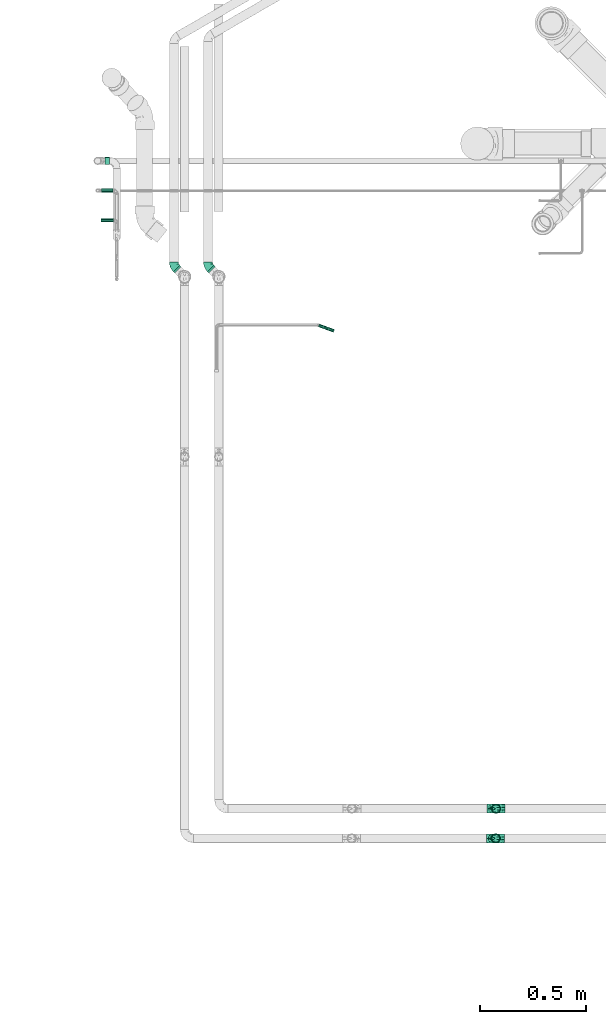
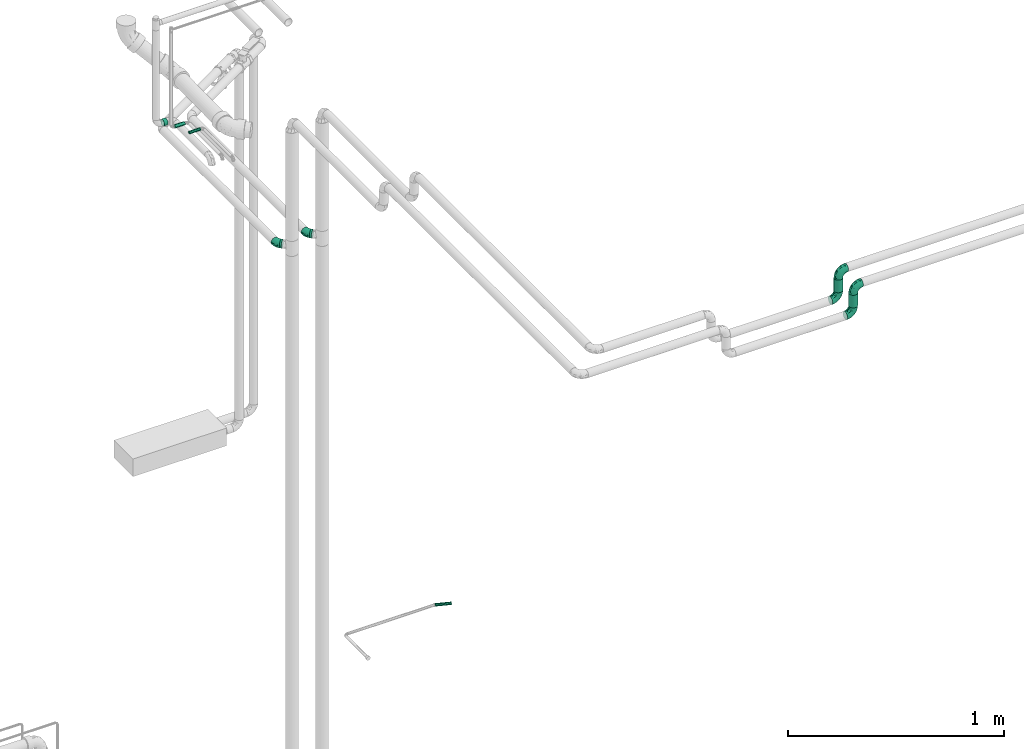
# One storey, part 71 of 108: 8 flow segments, 6 flow fittings.
"""IFC2X3 building model written with IfcOpenShell, lengths in millimetres."""

from ifc_helpers import new_model, entity, si_unit, converted_unit, derived_unit, direction, frame, origin_with_axes, origin_2d_with_axis, place, context, subcontext, project, spatial, hollow_circle, extrude, open_shell, surface_model, source, transform, mapped, type_object, element, save


model = new_model("IFC2X3")

# Units and contexts
model_context = context("Model", 3, precision=0.01, world=frame((0.0, 4.29681676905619e-09, 0.0)), true_north=direction((4.01073788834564e-13, 1.0)))
plan_context = context("Plan", 3, precision=0.01, world=frame((0.0, 4.29681676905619e-09, 0.0)), true_north=direction((4.01073788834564e-13, 1.0)))
body_context = subcontext(model_context, "Body", "Model", "MODEL_VIEW")
ifc_project = project(units=[converted_unit("PLANEANGLEUNIT", "DEGREE", entity("IfcPositiveLengthMeasure", 0.0174532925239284), si_unit("PLANEANGLEUNIT", "RADIAN"), dimensions=[0, 0, 0, 0, 0, 0, 0]), si_unit("AREAUNIT", "SQUARE_METRE"), si_unit("LENGTHUNIT", "METRE", prefix="MILLI"), si_unit("MASSUNIT", "GRAM", prefix="KILO"), si_unit("POWERUNIT", "WATT"), si_unit("PRESSUREUNIT", "PASCAL", prefix="KILO"), si_unit("FORCEUNIT", "NEWTON", prefix="KILO"), si_unit("ELECTRICVOLTAGEUNIT", "VOLT"), si_unit("ELECTRICCURRENTUNIT", "AMPERE"), si_unit("THERMODYNAMICTEMPERATUREUNIT", "DEGREE_CELSIUS"), si_unit("TIMEUNIT", "SECOND"), si_unit("VOLUMEUNIT", "CUBIC_METRE"), derived_unit("LINEARVELOCITYUNIT", [(si_unit("LENGTHUNIT", "METRE"), 1), (si_unit("TIMEUNIT", "SECOND"), -1)]), derived_unit("VOLUMETRICFLOWRATEUNIT", [(si_unit("VOLUMEUNIT", "CUBIC_METRE"), 1), (si_unit("TIMEUNIT", "SECOND"), -1)]), derived_unit("THERMALTRANSMITTANCEUNIT", [(si_unit("POWERUNIT", "WATT"), 1), (si_unit("THERMODYNAMICTEMPERATUREUNIT", "KELVIN"), -1), (si_unit("AREAUNIT", "SQUARE_METRE"), -1)]), derived_unit("SOUNDPRESSUREUNIT", [(si_unit("PRESSUREUNIT", "PASCAL"), 1)])], contexts=[model_context, plan_context])

# Site, building, storey
site_placement = place(None, frame((0.0, -4.29681676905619e-09, 0.0), z_axis=(0.0, 0.0, 1.0), x_axis=(1.0, 0.0, 0.0)))
site = spatial("IfcSite", under=ifc_project, at=site_placement, CompositionType="ELEMENT")
building_placement = place(site_placement, frame((0.0, 4.29681676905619e-09, 0.0), z_axis=(0.0, 0.0, 1.0), x_axis=(1.0, 0.0, 0.0)))
building = spatial("IfcBuilding", under=site, at=building_placement, Name="mc-building", CompositionType="ELEMENT")
storey_placement = place(building_placement, frame((0.0, 0.0, 210200.0), z_axis=(0.0, 0.0, 1.0), x_axis=(1.0, 0.0, 0.0)))
storey = spatial("IfcBuildingStorey", under=building, at=storey_placement, Name="Nivå F - 0,7 m", CompositionType="ELEMENT", Elevation=210200.0)

# Flow fittings
pipe_fitting_type = type_object("IfcPipeFittingType", Name="magi_pipe_fe_elbow_short_001", PredefinedType="BEND")
shared_shape_1 = source(origin_with_axes(), body_context, "Body", "SurfaceModel", [
    surface_model("IfcShellBasedSurfaceModel", [(-42.4, 10.6, -18.35974), (-42.4, 5.48696, -20.47763), (-42.4, 0.0, -21.2), (-42.4, 14.99066, -14.99066), (-42.4, 20.47763, -5.48696), (-42.4, 18.35974, -10.6), (-42.4, -14.99066, 14.99066), (-42.4, -21.2, 0.0), (-42.4, -10.6, -18.35974), (-42.4, -14.99066, -14.99066), (-42.4, -5.48696, -20.47763), (-42.4, -18.35974, -10.6), (-42.4, -20.47763, -5.48696), (-42.4, 10.6, 18.35974), (-42.4, 20.47763, 5.48696), (-42.4, 18.35974, 10.6), (-42.4, 14.99066, 14.99066), (-42.4, 5.48696, 20.47763), (-42.4, 0.0, 21.2), (-42.4, -20.47763, 5.48696), (-42.4, -18.35974, 10.6), (-42.4, -10.6, 18.35974), (-42.4, -5.48696, 20.47763), (-42.4, 21.2, 0.0), (0.0, 42.4, -21.2), (-5.48696, 42.4, -20.47763), (-10.6, 42.4, -18.35974), (-14.99066, 42.4, -14.99066), (-18.35974, 42.4, -10.6), (-20.47763, 42.4, -5.48696), (21.2, 42.4, 0.0), (5.48696, 42.4, -20.47763), (14.99066, 42.4, -14.99066), (10.6, 42.4, -18.35974), (18.35974, 42.4, -10.6), (20.47763, 42.4, -5.48696), (14.99066, 42.4, 14.99066), (-20.47763, 42.4, 5.48696), (-10.6, 42.4, 18.35974), (-14.99066, 42.4, 14.99066), (-18.35974, 42.4, 10.6), (-5.48696, 42.4, 20.47763), (0.0, 42.4, 21.2), (18.35974, 42.4, 10.6), (20.47763, 42.4, 5.48696), (5.48696, 42.4, 20.47763), (10.6, 42.4, 18.35974), (-21.2, 42.4, 0.0), (-31.10239, -16.47009, 11.90111), (-27.83957, -12.231, 15.79732), (-30.23067, -18.77937, 0.0), (-18.74048, -13.50096, 10.69998), (-28.17586, -18.50359, 6.61185), (18.50359, 28.17586, 6.61185), (14.95929, 16.60735, 5.43468), (16.35874, 18.06133, 0.0), (-20.72313, 33.83635, 9.21426), (-17.70981, 33.00599, 13.92769), (-31.16033, -8.01664, 19.07348), (-32.38682, -2.80842, 20.83743), (-29.68688, 3.24967, 21.16387), (-7.74467, -9.46536, 0.0), (-16.60735, -14.95929, 5.43468), (-18.06133, -16.35874, 0.0), (-16.37932, -5.14532, 17.61254), (-21.10659, -0.19025, 20.54817), (-1.82445, -3.58377, 9.55223), (-0.35533, 0.43745, 12.66367), (-7.20655, -5.07682, 13.06146), (-33.14056, 17.6728, 13.91288), (-7.36799, 20.84806, 21.16196), (-15.70315, 15.70315, 20.68489), (-12.62356, 9.26422, 21.0908), (-36.67879, 12.83836, 17.27427), (-7.91358, 36.5686, 19.85759), (-2.90555, 31.71221, 21.14793), (-33.84689, 20.71971, 9.21285), (-33.51649, 22.58113, 4.66115), (-26.3226, 26.3226, 7.92474), (-32.67995, 8.31454, 20.02643), (-5.53379, 14.19921, 20.81623), (-10.53385, 3.88918, 19.79653), (-2.16577, 11.45378, 19.48254), (-3.78693, 3.78693, 17.3328), (12.231, 27.83957, 15.79732), (13.50096, 18.74047, 10.69998), (16.47009, 31.10239, 11.90111), (-22.53806, 14.38475, 19.60876), (-23.29615, 9.08095, 20.82061), (2.80842, 32.38682, 20.83743), (8.01664, 31.16033, 19.07348), (5.14532, 16.37932, 17.61254), (18.77937, 30.23067, 0.0), (-20.80278, 5.19491, 21.19095), (-19.62579, 22.38752, 17.42006), (-29.19336, 14.39093, 17.85259), (-22.31569, 34.20044, 4.54807), (-26.56962, 27.80621, 3.73106), (9.67657, 17.17133, 14.49993), (-24.04026, 31.8, 0.0), (-9.16861, 28.72652, 20.19004), (-12.09761, 21.9456, 20.37969), (-15.36991, 27.40112, 17.818), (-16.88976, 20.52477, 19.2896), (-12.95169, 35.54896, 17.36222), (-17.17133, -9.67657, 14.49993), (-21.98655, 28.10245, 11.99898), (-22.34699, 23.67592, 15.01692), (-27.22822, 22.77969, 11.82161), (0.19025, 21.10658, 20.54817), (4.8276, 7.36347, 13.42842), (-10.06209, -9.46364, 9.95114), (1.25876, -2.7536, 5.73797), (6.43781, 3.77591, 7.40371), (6.57528, 2.20066, 3.17705), (10.91934, 8.84313, 5.00748), (10.64415, 10.99764, 8.89767), (-31.8, 24.04026, 0.0), (-5.71381, -8.43063, 6.15529), (2.57199, -2.57199, 0.0), (9.46536, 7.74467, 0.0), (-17.17133, -9.67657, -14.49993), (-27.83957, -12.231, -15.79732), (-16.37932, -5.14532, -17.61254), (-18.74048, -13.50096, -10.69998), (-33.00599, 17.70981, -13.92769), (-35.54896, 12.95169, -17.36222), (-34.20044, 22.31569, -4.54807), (-28.17586, -18.50359, -6.61185), (-26.3226, 26.3226, -7.92474), (-33.83635, 20.72313, -9.21426), (-16.60735, -14.95929, -5.43468), (-20.52477, 16.88976, -19.2896), (-21.9456, 12.0976, -20.37969), (-27.40112, 15.36991, -17.818), (-12.83836, 36.67879, -17.27427), (-17.6728, 33.14056, -13.91288), (8.01664, 31.16033, -19.07348), (5.14532, 16.37932, -17.61254), (0.19025, 21.10658, -20.54817), (-36.5686, 7.91358, -19.85759), (-31.10239, -16.47009, -11.90111), (-31.16033, -8.01664, -19.07348), (-14.38475, 22.53806, -19.60876), (-8.31454, 32.67995, -20.02643), (-9.08095, 23.29615, -20.82061), (-32.38682, -2.80842, -20.83743), (-20.84806, 7.36799, -21.16196), (-15.70315, 15.70314, -20.68489), (-9.26422, 12.62356, -21.0908), (-31.71221, 2.90555, -21.14793), (-22.58113, 33.51649, -4.66115), (-20.71971, 33.84689, -9.21285), (-28.72652, 9.16861, -20.19004), (-27.80621, 26.56962, -3.73106), (-5.19491, 20.80278, -21.19095), (-22.38752, 19.62579, -17.42006), (-14.39093, 29.19336, -17.85259), (2.80842, 32.38682, -20.83743), (-3.24967, 29.68688, -21.16387), (16.47009, 31.10239, -11.90111), (12.231, 27.83957, -15.79732), (6.57528, 2.20067, -3.17705), (10.91934, 8.84313, -5.00749), (-14.19921, 5.53379, -20.81623), (-3.88918, 10.53385, -19.79653), (-11.45378, 2.16577, -19.48254), (1.25876, -2.7536, -5.73797), (-5.71381, -8.43063, -6.15529), (-1.82445, -3.58377, -9.55223), (13.50096, 18.74048, -10.69998), (18.50359, 28.17586, -6.61185), (14.95929, 16.60735, -5.43468), (-28.10245, 21.98655, -11.99898), (9.67657, 17.17133, -14.49993), (10.64415, 10.99764, -8.89767), (4.8276, 7.36347, -13.42842), (-23.67592, 22.34699, -15.01692), (-22.77969, 27.22822, -11.82161), (-21.10658, -0.19025, -20.54817), (-3.78693, 3.78693, -17.3328), (-7.20655, -5.07682, -13.06146), (-10.06209, -9.46364, -9.95113), (-0.35533, 0.43745, -12.66367), (6.43781, 3.77591, -7.40371)], [open_shell([[[0, 1, 2]], [[3, 0, 2]], [[4, 5, 3]], [[2, 4, 3]], [[6, 2, 7]], [[8, 9, 10]], [[11, 10, 9]], [[12, 7, 11]], [[2, 10, 11]], [[11, 7, 2]], [[6, 4, 2]], [[13, 14, 4]], [[15, 14, 16]], [[4, 6, 13]], [[16, 14, 13]], [[17, 13, 18]], [[19, 20, 7]], [[7, 20, 6]], [[21, 22, 6]], [[18, 6, 22]], [[6, 18, 13]], [[23, 4, 14]], [[24, 25, 26]], [[24, 26, 27]], [[27, 28, 29]], [[27, 29, 24]], [[24, 29, 30]], [[31, 32, 33]], [[31, 24, 32]], [[34, 30, 35]], [[32, 24, 34]], [[24, 30, 34]], [[29, 36, 30]], [[29, 37, 38]], [[39, 37, 40]], [[36, 29, 38]], [[38, 37, 39]], [[41, 42, 38]], [[30, 43, 44]], [[36, 43, 30]], [[36, 45, 46]], [[45, 36, 42]], [[38, 42, 36]], [[37, 29, 47]], [[6, 48, 49]], [[19, 7, 50]], [[51, 48, 52]], [[53, 54, 55]], [[48, 6, 20]], [[19, 52, 20]], [[40, 56, 57]], [[49, 21, 6]], [[49, 58, 21]], [[18, 59, 60]], [[61, 62, 63]], [[58, 64, 65]], [[66, 67, 68]], [[15, 16, 69]], [[70, 71, 72]], [[13, 73, 16]], [[22, 59, 18]], [[41, 74, 75]], [[18, 60, 17]], [[15, 69, 76]], [[16, 73, 69]], [[23, 14, 77]], [[14, 15, 76]], [[77, 76, 78]], [[17, 79, 13]], [[80, 81, 82]], [[68, 83, 64]], [[84, 36, 46]], [[85, 86, 84]], [[87, 79, 88]], [[21, 58, 22]], [[42, 89, 45]], [[53, 44, 43]], [[42, 41, 75]], [[84, 90, 91]], [[43, 86, 53]], [[92, 44, 53]], [[86, 43, 36]], [[90, 46, 45]], [[53, 55, 92]], [[88, 93, 72]], [[54, 53, 85]], [[87, 94, 95]], [[78, 96, 97]], [[98, 84, 91]], [[99, 96, 47]], [[79, 17, 60]], [[96, 78, 56]], [[62, 52, 63]], [[57, 39, 40]], [[100, 70, 75]], [[101, 102, 103]], [[19, 50, 52]], [[104, 38, 39]], [[74, 41, 38]], [[57, 102, 104]], [[105, 64, 49]], [[90, 84, 46]], [[40, 37, 56]], [[56, 106, 57]], [[102, 57, 107]], [[95, 107, 69]], [[76, 108, 78]], [[100, 101, 70]], [[89, 75, 109]], [[64, 58, 49]], [[63, 52, 50]], [[59, 58, 65]], [[105, 49, 51]], [[64, 83, 81]], [[89, 90, 45]], [[30, 44, 92]], [[109, 82, 91]], [[109, 91, 90]], [[91, 83, 110]], [[111, 68, 105]], [[66, 68, 111]], [[62, 51, 52]], [[66, 112, 113]], [[114, 115, 113]], [[98, 85, 84]], [[52, 48, 20]], [[49, 48, 51]], [[84, 86, 36]], [[53, 86, 85]], [[88, 79, 60]], [[73, 79, 95]], [[96, 56, 37]], [[78, 108, 106]], [[87, 103, 94]], [[100, 74, 104]], [[108, 69, 107]], [[78, 97, 77]], [[88, 72, 71]], [[109, 75, 70]], [[81, 72, 65]], [[70, 72, 80]], [[75, 89, 42]], [[90, 89, 109]], [[58, 59, 22]], [[60, 59, 65]], [[67, 83, 68]], [[110, 113, 116]], [[88, 60, 93]], [[87, 88, 71]], [[103, 87, 71]], [[79, 87, 95]], [[101, 103, 71]], [[94, 103, 102]], [[47, 96, 37]], [[96, 99, 97]], [[99, 117, 97]], [[97, 117, 77]], [[23, 77, 117]], [[14, 76, 77]], [[60, 65, 93]], [[65, 72, 93]], [[70, 101, 71]], [[102, 101, 100]], [[69, 108, 76]], [[106, 108, 107]], [[57, 106, 107]], [[78, 106, 56]], [[57, 104, 39]], [[100, 104, 102]], [[102, 107, 94]], [[95, 94, 107]], [[64, 81, 65]], [[82, 81, 83]], [[91, 82, 83]], [[80, 82, 109]], [[70, 80, 109]], [[81, 80, 72]], [[79, 73, 13]], [[69, 73, 95]], [[104, 74, 38]], [[75, 74, 100]], [[62, 61, 118]], [[111, 62, 118]], [[113, 115, 116]], [[119, 118, 61]], [[111, 105, 51]], [[113, 112, 114]], [[120, 55, 54]], [[68, 64, 105]], [[91, 110, 98]], [[116, 98, 110]], [[62, 111, 51]], [[66, 111, 118]], [[112, 66, 118]], [[67, 113, 110]], [[118, 119, 112]], [[114, 112, 119]], [[119, 120, 114]], [[115, 120, 54]], [[120, 115, 114]], [[116, 54, 85]], [[54, 116, 115]], [[116, 85, 98]], [[113, 67, 66]], [[83, 67, 110]], [[121, 122, 123]], [[122, 121, 124]], [[5, 125, 3]], [[3, 126, 0]], [[117, 127, 23]], [[50, 12, 128]], [[127, 129, 130]], [[128, 131, 63]], [[132, 133, 134]], [[27, 135, 136]], [[137, 138, 139]], [[0, 140, 1]], [[128, 11, 141]], [[142, 8, 10]], [[128, 63, 50]], [[5, 4, 130]], [[11, 9, 141]], [[143, 144, 145]], [[146, 10, 2]], [[147, 148, 149]], [[11, 128, 12]], [[124, 141, 122]], [[150, 2, 1]], [[151, 152, 129]], [[125, 134, 126]], [[153, 147, 150]], [[127, 154, 129]], [[145, 155, 149]], [[47, 29, 151]], [[143, 156, 157]], [[152, 29, 28]], [[24, 158, 159]], [[122, 9, 8]], [[27, 26, 135]], [[144, 26, 25]], [[32, 160, 161]], [[24, 31, 158]], [[120, 162, 163]], [[130, 125, 5]], [[27, 136, 28]], [[1, 140, 150]], [[33, 161, 137]], [[142, 122, 8]], [[24, 159, 25]], [[164, 165, 166]], [[167, 168, 169]], [[34, 160, 32]], [[161, 33, 32]], [[170, 160, 171]], [[131, 128, 124]], [[30, 92, 35]], [[35, 92, 171]], [[172, 171, 55]], [[35, 171, 34]], [[144, 25, 159]], [[130, 173, 125]], [[174, 175, 176]], [[136, 152, 28]], [[33, 137, 31]], [[122, 142, 123]], [[134, 125, 177]], [[157, 177, 136]], [[152, 178, 129]], [[153, 133, 147]], [[146, 150, 179]], [[146, 142, 10]], [[7, 12, 50]], [[179, 166, 123]], [[179, 123, 142]], [[123, 180, 181]], [[138, 137, 161]], [[55, 171, 92]], [[158, 137, 139]], [[174, 161, 170]], [[138, 180, 165]], [[180, 138, 176]], [[124, 121, 182]], [[176, 183, 180]], [[61, 131, 168]], [[169, 168, 182]], [[172, 170, 171]], [[122, 141, 9]], [[128, 141, 124]], [[171, 160, 34]], [[161, 160, 170]], [[145, 144, 159]], [[135, 144, 157]], [[127, 130, 4]], [[129, 178, 173]], [[143, 132, 156]], [[153, 140, 126]], [[178, 136, 177]], [[129, 154, 151]], [[145, 149, 148]], [[179, 150, 147]], [[165, 149, 139]], [[147, 149, 164]], [[150, 146, 2]], [[142, 146, 179]], [[137, 158, 31]], [[159, 158, 139]], [[174, 138, 161]], [[184, 169, 183]], [[145, 159, 155]], [[143, 145, 148]], [[132, 143, 148]], [[144, 143, 157]], [[133, 132, 148]], [[156, 132, 134]], [[23, 127, 4]], [[127, 117, 154]], [[117, 99, 154]], [[154, 99, 151]], [[47, 151, 99]], [[29, 152, 151]], [[159, 139, 155]], [[139, 149, 155]], [[147, 133, 148]], [[134, 133, 153]], [[136, 178, 152]], [[173, 178, 177]], [[125, 173, 177]], [[129, 173, 130]], [[125, 126, 3]], [[153, 126, 134]], [[134, 177, 156]], [[157, 156, 177]], [[138, 165, 139]], [[166, 165, 180]], [[123, 166, 180]], [[164, 166, 179]], [[147, 164, 179]], [[165, 164, 149]], [[144, 135, 26]], [[136, 135, 157]], [[126, 140, 0]], [[150, 140, 153]], [[182, 131, 124]], [[168, 119, 61]], [[119, 167, 162]], [[63, 131, 61]], [[172, 163, 175]], [[172, 55, 120]], [[123, 181, 121]], [[182, 121, 181]], [[175, 174, 170]], [[176, 138, 174]], [[169, 182, 181]], [[131, 182, 168]], [[183, 169, 181]], [[167, 169, 184]], [[162, 167, 184]], [[119, 168, 167]], [[163, 162, 184]], [[120, 119, 162]], [[175, 163, 184]], [[120, 163, 172]], [[176, 175, 184]], [[172, 175, 170]], [[180, 183, 181]], [[184, 183, 176]]])]),
])
for number, where, z_axis, x_axis, name in (
    (1, (325917.62236, 460394.12277, 3038.28479999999), (0.0, -1.0, 0.0), (-1.0, 0.0, 0.0), "magi_pipe_fe_elbow_short_001"),
    (2, (325917.62236, 460394.12277, 2882.13959999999), (0.0, 1.0, 0.0), (0.0, 0.0, -1.0), "magi_pipe_fe_elbow_short_001"),
    (3, (325916.2625, 460254.12277, 3038.28479999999), (0.0, -1.0, 0.0), (-1.0, 0.0, 0.0), "magi_pipe_fe_elbow_short_001"),
    (4, (325916.2625, 460254.12277, 2882.13959999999), (0.0, 1.0, 0.0), (0.0, 0.0, -1.0), "magi_pipe_fe_elbow_short_001"),
):
    element("IfcFlowFitting", number, at=place(storey_placement, frame(where, z_axis=z_axis, x_axis=x_axis)), inside=storey, type_object=pipe_fitting_type, Name=name, context=body_context, shape_type="MappedRepresentation", body=[
        mapped(shared_shape_1, transform((0.0, 0.0, 0.0), scale=1.0)),
    ])
shared_shape_2 = source(origin_with_axes(), body_context, "Body", "SurfaceModel", [
    surface_model("IfcShellBasedSurfaceModel", [(-17.56266, 10.6, -18.35974), (-17.56266, 5.48696, -20.47763), (-17.56266, 0.0, -21.2), (-17.56266, 14.99066, -14.99066), (-17.56266, 20.47763, -5.48696), (-17.56266, 18.35974, -10.6), (-17.56266, -14.99066, 14.99066), (-17.56266, -21.2, 0.0), (-17.56266, -10.6, -18.35974), (-17.56266, -14.99066, -14.99066), (-17.56266, -5.48696, -20.47763), (-17.56266, -20.47763, -5.48696), (-17.56266, -18.35974, -10.6), (-17.56266, 10.6, 18.35974), (-17.56266, 20.47763, 5.48696), (-17.56266, 18.35974, 10.6), (-17.56266, 14.99066, 14.99066), (-17.56266, 0.0, 21.2), (-17.56266, 5.48696, 20.47763), (-17.56266, -20.47763, 5.48696), (-17.56266, -18.35974, 10.6), (-17.56266, -10.6, 18.35974), (-17.56266, -5.48696, 20.47763), (-17.56266, 21.2, 0.0), (12.41867, 12.41867, -21.2), (8.5388, 16.29854, -20.47763), (4.92334, 19.91401, -18.35974), (1.81867, 23.01867, -14.99066), (-0.56362, 25.40097, -10.6), (-2.0612, 26.89854, -5.48696), (23.01867, 1.81867, -14.99066), (16.29854, 8.5388, -20.47763), (19.91401, 4.92334, -18.35974), (25.40097, -0.56362, -10.6), (27.40934, -2.57199, 0.0), (26.89854, -2.0612, -5.48696), (23.01867, 1.81867, 14.99066), (-2.0612, 26.89854, 5.48696), (4.92334, 19.91401, 18.35974), (-0.56362, 25.40097, 10.6), (12.41867, 12.41867, 21.2), (1.81867, 23.01867, 14.99066), (8.5388, 16.29854, 20.47763), (25.40097, -0.56362, 10.6), (26.89854, -2.0612, 5.48696), (19.91401, 4.92334, 18.35974), (16.29854, 8.5388, 20.47763), (-2.57199, 27.40934, 0.0), (-8.40024, -7.77386, 19.37571), (-4.69017, -11.98175, 16.35875), (2.17676, -5.25517, 19.10859), (-6.84574, -16.21398, 12.41342), (16.30569, -6.62435, 12.41342), (-6.32725, -2.04119, 20.91914), (-8.14571, 8.8219, 19.81901), (-2.01641, 4.86804, 21.1255), (-10.62217, 2.93771, 21.07135), (0.62927, 12.74499, 19.78718), (3.83247, 10.03513, 20.89165), (5.39951, -13.03557, 11.81412), (11.43682, 0.44291, 19.37571), (-8.73345, 21.08441, 8.70987), (-9.34914, 17.77933, 13.37863), (-6.0219, 14.53816, 17.30779), (1.82504, -17.82225, 3.74766), (9.69168, -14.69469, 3.74766), (6.26896, -15.1346, 7.37727), (-5.39332, -18.77937, 0.0), (-5.97409, -19.77446, 3.86222), (20.4312, -8.10976, 4.0775), (15.65707, -10.28132, 7.36222), (-8.49154, 22.7164, 4.45437), (-3.80123, -18.34121, 7.36222), (5.91738, 3.0307, 20.91914), (11.78883, -5.15593, 16.35875), (6.77601, -16.35874, 0.0), (17.09267, -9.46536, 0.0), (-9.44977, 22.81375, 0.0), (3.55838, -8.59068, 16.90582), (-6.32725, -2.04119, -20.91914), (11.31173, -13.89274, -3.74766), (3.53767, -17.24376, -3.74766), (6.26896, -15.1346, -7.37727), (5.91738, 3.0307, -20.91914), (-9.45703, 8.56711, -19.78718), (-9.80587, 4.38594, -20.89165), (-5.96104, 19.18272, -13.37863), (11.78883, -5.15593, -16.35875), (-8.73345, 21.08441, -8.70987), (15.65707, -10.28132, -7.36222), (-10.05849, 22.06734, -4.45437), (-0.47814, 11.99791, -19.81901), (-8.71257, -20.1815, -4.0775), (-3.80123, -18.34121, -7.36222), (5.39951, -13.03557, -11.81412), (16.30569, -6.62435, -12.41342), (-6.84574, -16.21398, -12.41342), (-4.69017, -11.98175, -16.35875), (3.55838, -8.59068, -16.90582), (-8.40024, -7.77386, -19.37571), (2.17676, -5.25517, -19.10859), (11.43682, 0.44291, -19.37571), (-2.01641, 4.86804, -21.1255), (-6.0219, 14.53816, -17.3078), (18.20697, -9.75834, -3.86222), (5.43374, 9.58829, -21.07135)], [open_shell([[[0, 1, 2]], [[3, 0, 2]], [[4, 5, 3]], [[2, 4, 3]], [[6, 2, 7]], [[8, 9, 10]], [[9, 2, 10]], [[11, 7, 12]], [[12, 2, 9]], [[12, 7, 2]], [[6, 4, 2]], [[13, 14, 4]], [[15, 14, 16]], [[13, 4, 6]], [[16, 14, 13]], [[13, 17, 18]], [[19, 20, 7]], [[7, 20, 6]], [[21, 22, 6]], [[17, 6, 22]], [[6, 17, 13]], [[23, 4, 14]], [[24, 25, 26]], [[24, 26, 27]], [[27, 28, 29]], [[27, 29, 24]], [[24, 29, 30]], [[31, 30, 32]], [[31, 24, 30]], [[33, 34, 35]], [[34, 33, 30]], [[29, 34, 30]], [[29, 36, 34]], [[29, 37, 38]], [[38, 37, 39]], [[29, 38, 40]], [[38, 39, 41]], [[40, 38, 42]], [[36, 43, 34]], [[44, 34, 43]], [[45, 40, 46]], [[40, 45, 36]], [[36, 29, 40]], [[37, 29, 47]], [[48, 49, 50]], [[6, 51, 49]], [[21, 6, 49]], [[43, 36, 52]], [[17, 22, 53]], [[22, 21, 48]], [[13, 18, 54]], [[55, 56, 53]], [[17, 56, 18]], [[42, 57, 58]], [[49, 51, 59]], [[45, 46, 60]], [[61, 15, 62]], [[63, 16, 13]], [[64, 65, 66]], [[67, 64, 68]], [[69, 44, 70]], [[61, 71, 14]], [[20, 19, 72]], [[23, 14, 71]], [[14, 15, 61]], [[6, 20, 51]], [[54, 63, 13]], [[72, 66, 59]], [[7, 67, 68]], [[38, 41, 63]], [[40, 58, 73]], [[36, 45, 74]], [[39, 37, 61]], [[73, 46, 40]], [[64, 67, 75]], [[36, 74, 52]], [[55, 58, 57]], [[74, 45, 60]], [[20, 72, 51]], [[76, 69, 65]], [[44, 69, 34]], [[56, 54, 18]], [[71, 61, 37]], [[77, 71, 47]], [[52, 59, 70]], [[49, 78, 50]], [[50, 73, 53]], [[42, 38, 57]], [[50, 60, 73]], [[61, 62, 39]], [[55, 53, 73]], [[41, 39, 62]], [[63, 54, 57]], [[48, 53, 22]], [[15, 16, 62]], [[44, 43, 70]], [[59, 51, 72]], [[78, 59, 74]], [[59, 52, 74]], [[70, 43, 52]], [[16, 63, 62]], [[41, 62, 63]], [[63, 57, 38]], [[55, 57, 54]], [[49, 48, 21]], [[53, 48, 50]], [[73, 60, 46]], [[74, 60, 50]], [[73, 58, 55]], [[40, 42, 58]], [[53, 56, 17]], [[54, 56, 55]], [[64, 66, 72]], [[70, 59, 66]], [[64, 72, 68]], [[65, 64, 75]], [[76, 65, 75]], [[70, 66, 65]], [[72, 19, 68]], [[7, 68, 19]], [[59, 78, 49]], [[74, 50, 78]], [[47, 71, 37]], [[71, 77, 23]], [[65, 69, 70]], [[34, 69, 76]], [[10, 2, 79]], [[80, 81, 82]], [[24, 31, 83]], [[84, 85, 1]], [[5, 86, 3]], [[32, 30, 87]], [[88, 86, 5]], [[33, 35, 89]], [[4, 90, 88]], [[26, 25, 91]], [[92, 11, 93]], [[0, 84, 1]], [[67, 92, 81]], [[94, 95, 89]], [[11, 92, 7]], [[96, 9, 97]], [[9, 8, 97]], [[98, 94, 97]], [[11, 12, 93]], [[9, 96, 12]], [[99, 8, 10]], [[96, 94, 93]], [[100, 79, 83]], [[101, 83, 31]], [[23, 77, 90]], [[80, 76, 75]], [[47, 29, 90]], [[102, 83, 79]], [[27, 26, 103]], [[88, 5, 4]], [[28, 86, 88]], [[99, 97, 8]], [[91, 103, 26]], [[85, 79, 2]], [[103, 91, 84]], [[3, 103, 0]], [[76, 80, 104]], [[24, 105, 25]], [[101, 31, 32]], [[89, 82, 94]], [[30, 33, 95]], [[87, 100, 101]], [[87, 95, 94]], [[100, 99, 79]], [[34, 76, 104]], [[28, 27, 86]], [[105, 91, 25]], [[95, 87, 30]], [[87, 98, 100]], [[105, 83, 102]], [[102, 85, 84]], [[29, 88, 90]], [[33, 89, 95]], [[29, 28, 88]], [[94, 96, 97]], [[93, 12, 96]], [[27, 103, 86]], [[3, 86, 103]], [[103, 84, 0]], [[102, 84, 91]], [[79, 99, 10]], [[97, 99, 100]], [[87, 101, 32]], [[83, 101, 100]], [[79, 85, 102]], [[2, 1, 85]], [[83, 105, 24]], [[91, 105, 102]], [[80, 82, 89]], [[93, 94, 82]], [[80, 89, 104]], [[81, 80, 75]], [[67, 81, 75]], [[93, 82, 81]], [[89, 35, 104]], [[34, 104, 35]], [[94, 98, 87]], [[97, 100, 98]], [[23, 90, 4]], [[90, 77, 47]], [[81, 92, 93]], [[7, 92, 67]]])]),
])
for number, where, z_axis, x_axis, name in (
    (5, (324398.12406, 462954.26344, 2171.0), (0.0, 0.0, 1.0), (0.0, -1.0, 0.0), "magi_pipe_fe_elbow_short_001"),
    (6, (324558.8625, 462954.88486, 2171.0), (0.0, 0.0, 1.0), (0.0, -1.0, 0.0), "magi_pipe_fe_elbow_short_001"),
):
    element("IfcFlowFitting", number, at=place(storey_placement, frame(where, z_axis=z_axis, x_axis=x_axis)), inside=storey, type_object=pipe_fitting_type, Name=name, context=body_context, shape_type="MappedRepresentation", body=[
        mapped(shared_shape_2, transform((0.0, 0.0, 0.0), scale=1.0)),
    ])

# Flow segments
pipe_segment_type_1 = type_object("IfcPipeSegmentType", Name="Stålrør normaltykke", PredefinedType="RIGIDSEGMENT")
shared_shape_3 = source(origin_with_axes(), body_context, "Body", "SweptSolid", [
    extrude(hollow_circle(Radius=21.2, WallThickness=2.0, at=origin_2d_with_axis()), frame((0.0, 0.0, 0.0), z_axis=(1.0, 0.0, 0.0), x_axis=(0.0, 1.0, 0.0)), (0.0, 0.0, 1.0), 71.0),
])
for number, where, z_axis, x_axis in (
    (7, (325917.62236, 460394.12277, 2995.8848), (-1.0, 0.0, 0.0), (0.0, 0.0, -1.0)),
    (8, (325916.2625, 460254.12277, 2995.8848), (-1.0, 0.0, 0.0), (0.0, 0.0, -1.0)),
):
    element("IfcFlowSegment", number, at=place(storey_placement, frame(where, z_axis=z_axis, x_axis=x_axis)), inside=storey, type_object=pipe_segment_type_1, Name="Stålrør normaltykke", context=body_context, shape_type="MappedRepresentation", body=[
        mapped(shared_shape_3, transform((0.0, 0.0, 0.0), scale=1.0)),
    ])
pipe_segment_type_2 = type_object("IfcPipeSegmentType", Name="Kobberrør", PredefinedType="RIGIDSEGMENT")
shared_shape_4 = source(origin_with_axes(), body_context, "Body", "SweptSolid", [
    extrude(hollow_circle(Radius=7.5, WallThickness=2.0, at=origin_2d_with_axis()), frame((0.0, 0.0, 0.0), z_axis=(1.0, 0.0, 0.0), x_axis=(0.0, 1.0, 0.0)), (0.0, 0.0, 1.0), 77.4),
])
flow_segment_1_placement = place(storey_placement, frame((325153.48559, 462647.76385, 58.8447400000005), z_axis=(0.0, 0.0, 1.0), x_axis=(-0.939692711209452, 0.342019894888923, 0.0)))
element("IfcFlowSegment", 9, at=flow_segment_1_placement, inside=storey, type_object=pipe_segment_type_2, Name="Kobberrør", context=body_context, shape_type="MappedRepresentation", body=[
    mapped(shared_shape_4, transform((0.0, 0.0, 0.0), scale=1.0)),
])
shared_shape_5 = source(origin_with_axes(), body_context, "Body", "SweptSolid", [
    extrude(hollow_circle(Radius=21.2, WallThickness=2.0, at=origin_2d_with_axis()), frame((0.0, 0.0, 0.0), z_axis=(1.0, 0.0, 0.0), x_axis=(0.0, 1.0, 0.0)), (0.0, 0.0, 1.0), 8.9),
])
flow_segment_2_placement = place(storey_placement, frame((324410.54274, 462941.84476, 2171.0), z_axis=(0.0, 0.0, 1.0), x_axis=(0.707106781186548, -0.707106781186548, 0.0)))
element("IfcFlowSegment", 10, at=flow_segment_2_placement, inside=storey, type_object=pipe_segment_type_1, Name="Stålrør normaltykke", context=body_context, shape_type="MappedRepresentation", body=[
    mapped(shared_shape_5, transform((0.0, 0.0, 0.0), scale=1.0)),
])
shared_shape_6 = source(origin_with_axes(), body_context, "Body", "SweptSolid", [
    extrude(hollow_circle(Radius=21.2, WallThickness=2.0, at=origin_2d_with_axis()), frame((0.0, 0.0, 0.0), z_axis=(1.0, 0.0, 0.0), x_axis=(0.0, 1.0, 0.0)), (0.0, 0.0, 1.0), 9.8),
])
flow_segment_3_placement = place(storey_placement, frame((324571.28117, 462942.46619, 2171.0), z_axis=(0.0, 0.0, 1.0), x_axis=(0.707106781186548, -0.707106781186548, 0.0)))
element("IfcFlowSegment", 11, at=flow_segment_3_placement, inside=storey, type_object=pipe_segment_type_1, Name="Stålrør normaltykke", context=body_context, shape_type="MappedRepresentation", body=[
    mapped(shared_shape_6, transform((0.0, 0.0, 0.0), scale=1.0)),
])
shared_shape_7 = source(origin_with_axes(), body_context, "Body", "SweptSolid", [
    extrude(hollow_circle(Radius=9.0, WallThickness=2.0, at=origin_2d_with_axis()), frame((0.0, 0.0, 0.0), z_axis=(1.0, 0.0, 0.0), x_axis=(0.0, 1.0, 0.0)), (0.0, 0.0, 1.0), 54.0),
])
flow_segment_4_placement = place(storey_placement, frame((324110.525, 463310.0, 2732.14094000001), z_axis=(0.0, 0.0, 1.0), x_axis=(-1.0, 0.0, 0.0)))
element("IfcFlowSegment", 12, at=flow_segment_4_placement, inside=storey, type_object=pipe_segment_type_2, Name="Kobberrør", context=body_context, shape_type="MappedRepresentation", body=[
    mapped(shared_shape_7, transform((0.0, 0.0, 0.0), scale=1.0)),
])
shared_shape_8 = source(origin_with_axes(), body_context, "Body", "SweptSolid", [
    extrude(hollow_circle(Radius=7.5, WallThickness=2.0, at=origin_2d_with_axis()), frame((0.0, 0.0, 0.0), z_axis=(1.0, 0.0, 0.0), x_axis=(0.0, 1.0, 0.0)), (0.0, 0.0, 1.0), 60.0),
])
flow_segment_5_placement = place(storey_placement, frame((324053.49342, 463170.0, 2783.40148), z_axis=(-0.000515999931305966, 0.0, 0.999999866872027), x_axis=(0.999999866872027, 0.0, 0.000515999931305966)))
element("IfcFlowSegment", 13, at=flow_segment_5_placement, inside=storey, type_object=pipe_segment_type_2, Name="Kobberrør", context=body_context, shape_type="MappedRepresentation", body=[
    mapped(shared_shape_8, transform((0.0, 0.0, 0.0), scale=1.0)),
])
shared_shape_9 = source(origin_with_axes(), body_context, "Body", "SweptSolid", [
    extrude(hollow_circle(Radius=17.5, WallThickness=2.0, at=origin_2d_with_axis()), frame((0.0, 0.0, 0.0), z_axis=(1.0, 0.0, 0.0), x_axis=(0.0, 1.0, 0.0)), (0.0, 0.0, 1.0), 20.0),
])
flow_segment_6_placement = place(storey_placement, frame((324093.525, 463450.0, 2663.34624000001), z_axis=(0.0, 0.0, 1.0), x_axis=(-1.0, 0.0, 0.0)))
element("IfcFlowSegment", 14, at=flow_segment_6_placement, inside=storey, type_object=pipe_segment_type_2, Name="Kobberrør", context=body_context, shape_type="MappedRepresentation", body=[
    mapped(shared_shape_9, transform((0.0, 0.0, 0.0), scale=1.0)),
])

save(model, "model.ifc")
